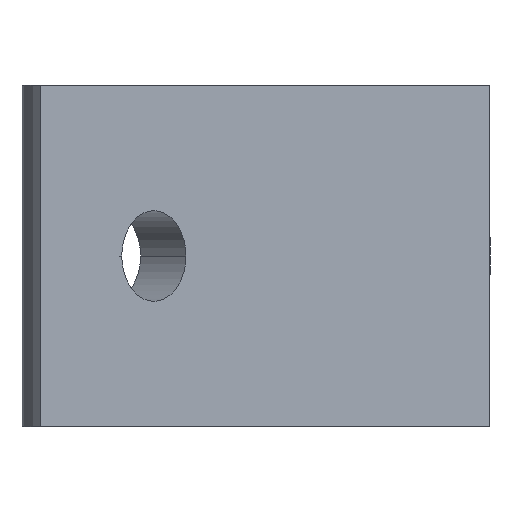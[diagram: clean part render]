
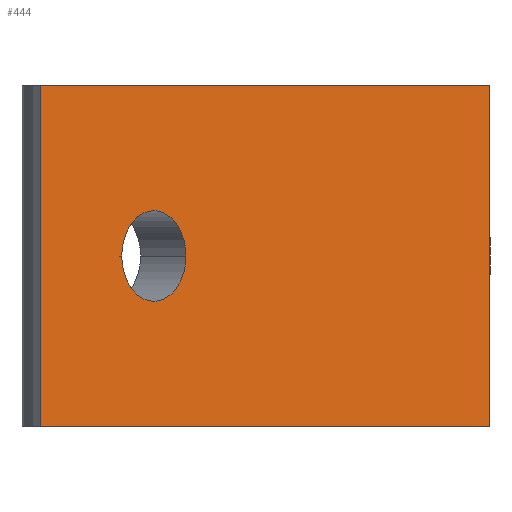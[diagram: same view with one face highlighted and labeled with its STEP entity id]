
A CAD part, left-side view. The second image highlights one B-rep face of the part: STEP entity #444.
In plain terms, the highlighted planar face has unit normal (-0.707, -0.707, 0).
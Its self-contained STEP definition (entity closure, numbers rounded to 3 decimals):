
#99 = CARTESIAN_POINT ( 'NONE',  ( 0., 0., 16. ) ) ;
#107 = CARTESIAN_POINT ( 'NONE',  ( -34.471, 34.471, 0. ) ) ;
#124 = DIRECTION ( 'NONE',  ( 0.707, -0.707, 0. ) ) ;
#126 = CARTESIAN_POINT ( 'NONE',  ( 0., 0., 16. ) ) ;
#127 = LINE ( 'NONE', #126, #403 ) ;
#132 = DIRECTION ( 'NONE',  ( 0., 0., -1. ) ) ;
#134 = CARTESIAN_POINT ( 'NONE',  ( -42.073, 42.073, 16. ) ) ;
#135 = LINE ( 'NONE', #134, #574 ) ;
#152 = DIRECTION ( 'NONE',  ( 0., 0., -1. ) ) ;
#153 = CARTESIAN_POINT ( 'NONE',  ( 0., 0., 16. ) ) ;
#154 = LINE ( 'NONE', #153, #369 ) ;
#209 = CIRCLE ( 'NONE', #390, 4.25 ) ;
#223 = CIRCLE ( 'NONE', #454, 4.25 ) ;
#231 = DIRECTION ( 'NONE',  ( -0.707, -0.707, 0. ) ) ;
#236 = DIRECTION ( 'NONE',  ( 0.707, -0.707, 0. ) ) ;
#240 = CARTESIAN_POINT ( 'NONE',  ( -31.466, 31.466, 0. ) ) ;
#281 = VECTOR ( 'NONE', #541, 1000. ) ;
#299 = ORIENTED_EDGE ( 'NONE', *, *, #509, .F. ) ;
#312 = ORIENTED_EDGE ( 'NONE', *, *, #637, .T. ) ;
#316 = VERTEX_POINT ( 'NONE', #516 ) ;
#319 = DIRECTION ( 'NONE',  ( 0.707, -0.707, 0. ) ) ;
#346 = EDGE_CURVE ( 'NONE', #383, #347, #536, .T. ) ;
#347 = VERTEX_POINT ( 'NONE', #542 ) ;
#351 = FACE_OUTER_BOUND ( 'NONE', #424, .T. ) ;
#358 = ORIENTED_EDGE ( 'NONE', *, *, #346, .T. ) ;
#369 = VECTOR ( 'NONE', #152, 1000. ) ;
#381 = VERTEX_POINT ( 'NONE', #553 ) ;
#383 = VERTEX_POINT ( 'NONE', #554 ) ;
#386 = ORIENTED_EDGE ( 'NONE', *, *, #602, .F. ) ;
#388 = FACE_BOUND ( 'NONE', #421, .T. ) ;
#389 = ORIENTED_EDGE ( 'NONE', *, *, #640, .F. ) ;
#390 = AXIS2_PLACEMENT_3D ( 'NONE', #622, #430, #319 ) ;
#398 = AXIS2_PLACEMENT_3D ( 'NONE', #609, #610, #612 ) ;
#403 = VECTOR ( 'NONE', #124, 1000. ) ;
#413 = ORIENTED_EDGE ( 'NONE', *, *, #448, .F. ) ;
#421 = EDGE_LOOP ( 'NONE', ( #299, #413 ) ) ;
#424 = EDGE_LOOP ( 'NONE', ( #358, #386, #389, #312 ) ) ;
#430 = DIRECTION ( 'NONE',  ( -0.707, -0.707, 0. ) ) ;
#444 = ADVANCED_FACE ( 'NONE', ( #388, #351 ), #605, .F. ) ;
#448 = EDGE_CURVE ( 'NONE', #661, #381, #209, .T. ) ;
#454 = AXIS2_PLACEMENT_3D ( 'NONE', #240, #231, #236 ) ;
#509 = EDGE_CURVE ( 'NONE', #381, #661, #223, .T. ) ;
#516 = CARTESIAN_POINT ( 'NONE',  ( -42.073, 42.073, 16. ) ) ;
#536 = LINE ( 'NONE', #538, #281 ) ;
#538 = CARTESIAN_POINT ( 'NONE',  ( 0., 0., -16. ) ) ;
#541 = DIRECTION ( 'NONE',  ( 0.707, -0.707, 0. ) ) ;
#542 = CARTESIAN_POINT ( 'NONE',  ( 0., 0., -16. ) ) ;
#553 = CARTESIAN_POINT ( 'NONE',  ( -28.461, 28.461, 0. ) ) ;
#554 = CARTESIAN_POINT ( 'NONE',  ( -42.073, 42.073, -16. ) ) ;
#574 = VECTOR ( 'NONE', #132, 1000. ) ;
#602 = EDGE_CURVE ( 'NONE', #672, #347, #154, .T. ) ;
#605 = PLANE ( 'NONE',  #398 ) ;
#609 = CARTESIAN_POINT ( 'NONE',  ( 0., 0., 16. ) ) ;
#610 = DIRECTION ( 'NONE',  ( 0.707, 0.707, 0. ) ) ;
#612 = DIRECTION ( 'NONE',  ( -0.707, 0.707, 0. ) ) ;
#622 = CARTESIAN_POINT ( 'NONE',  ( -31.466, 31.466, 0. ) ) ;
#637 = EDGE_CURVE ( 'NONE', #316, #383, #135, .T. ) ;
#640 = EDGE_CURVE ( 'NONE', #316, #672, #127, .T. ) ;
#661 = VERTEX_POINT ( 'NONE', #107 ) ;
#672 = VERTEX_POINT ( 'NONE', #99 ) ;
